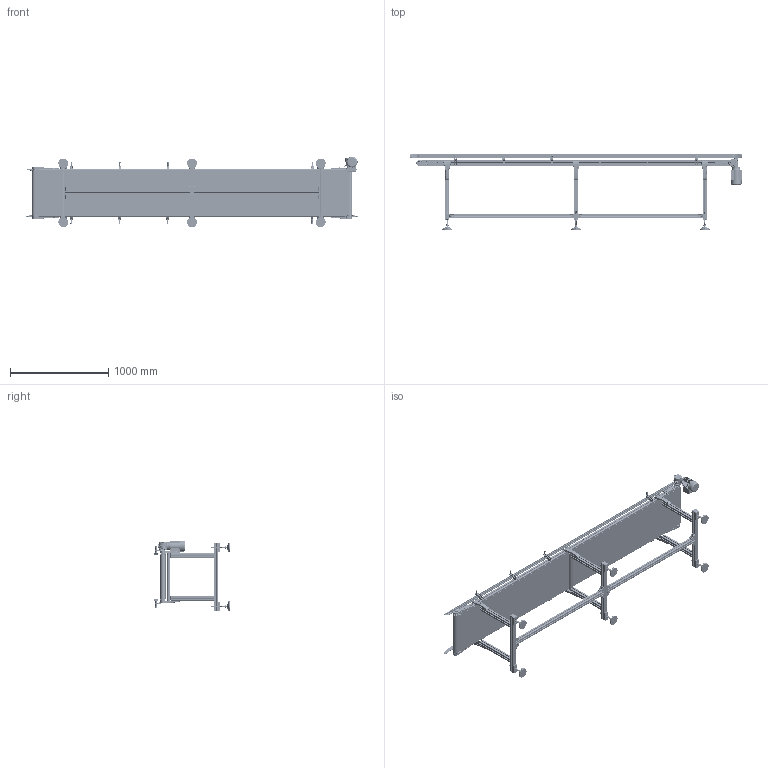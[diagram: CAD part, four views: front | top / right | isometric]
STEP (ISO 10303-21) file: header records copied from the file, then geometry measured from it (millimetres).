
FILE_DESCRIPTION (( 'STEP AP203' ), '1' );
FILE_NAME ('NASTRO_RETTILINEO_TAPPETO.step', '2026-06-06T00:15:28', ( 'Utente Windows' ), ( '' ), 'SwSTEP 2.0', 'SolidWorks 2024', '' );
FILE_SCHEMA (( 'CONFIG_CONTROL_DESIGN' ));
Length unit declared in the file: millimetre
Products named in the file (79): 084.402.005; 084.302.000 DADI ALUSIC 13x13-1_084.302.007; 084.802.065_Default<A macchina>; 084.711.006_L1; 2010.000.068; VITI TCEI UNI 5931_M6x12 UNI 5931; 084.712.005; ANGOLARE_43; 084.802.013-2; SPONDA_Default<A macchina>; 084.802.014; 084.803.018; 0820ISO2342; 084.711.005; 084.303.001; CH03P_DX; FLANGIA_GAMBA_50; 084.711.007; 084.811.001; 084.802.017_084.802.017; 2010.000.068_L; 084.711.006_PER CAVA 8 PERNO ALTO 1; VITI TSEI UNI 5933_M5x12 UNI 5933; 084.201.012; 084.302.000 DADI ALUSIC 13x13-1_084.302.004; 084.301.000 VITI ALUSIC_084.301.009; RONDELLE FASCIA LARGA UNI 6593_5.4x20 UNI 6593; 084.808.012; TRAVERSA_50_Default<A macchina>; PIEDE; TELAIO_50_STANDARD_Default<A macchina>; 084.811.004; CHIAVETTE_A 5x5x20 UNI 6604-69; 084.711.006_L2; RULLO_REGGITAPPETO; 084.802.061; RONDELLE UNI 6592_8.4x17 UNI 6592; 084.305.003-1; VITI TE UNI 5739_M6x16 UNI 5739; 084.810.001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
Assembly tree (218 placements, depth 4):
  NASTRO_RETTILINEO_TAPPETO
    TAPPETO_STANDARD
    TELAIO_50_STANDARD_Default<A macchina>
    LAMIERA_STANDARD  x2
    RULLO_50_Default<A macchina>  x2
    BLOCCO_PERNO_50_30
      084.810.001
      084.811.001
      RONDELLE FASCIA LARGA UNI 6593_5.4x20 UNI 6593
      084.301.000 VITI ALUSIC_084.301.009
      CHIAVETTE_A 5x5x40 UNI 6604-69
      CHIAVETTE_A 5x5x20 UNI 6604-69
      14UNI7435
    BLOCCO_TRAINO_50_STANDARD_30_DX
      084.807.003_084.807.003<A macchina>
      084.802.017_084.802.017
      084.301.000 VITI ALUSIC_084.301.003  x2
      084.302.000 DADI ALUSIC 13x13-1_084.302.004  x2
      BLOCCO_BRACCIO_CH03P_VF30P
        084.808.012
        084.802.062
        0820ISO2342
        084.802.061
        VITI TE UNI 5739_M6x16 UNI 5739  x4
        084.803.018
        VITI TCEI UNI 5931_M6x12 UNI 5931  x4
      084.802.065_Default<A macchina>
      VITI TCEI UNI 5931_M4x25 UNI 5931  x2
    BLOCCO_PERNO_50_RINVIO  x3
      084.811.004
      084.810.001
    BLOCCO_TRAINO_50_STANDARD
      084.807.002_084.807.002
      084.802.017_084.802.017
      084.301.000 VITI ALUSIC_084.301.003  x2
      084.302.000 DADI ALUSIC 13x13-1_084.302.004  x2
      084.802.071
      VITI TSEI UNI 5933 INOX_0412UNI5933A2  x2
    BLOCCO_RINVIO_50_STANDARD  x2
      084.807.002_084.807.002
      084.802.017_084.802.017
      084.802.008
      084.301.000 VITI ALUSIC_084.301.003
      084.302.000 DADI ALUSIC 13x13_084.302.004
      VITI TSEI UNI 5933_M4x10 UNI 5933
      084.802.071
    SPONDA_Default<A macchina>  x2
    084.711.006_PER CAVA 8 PERNO ALTO 1  x8
      084.711.006_L1
      084.711.006_L2
      084.711.007
      084.711.005
      084.711.010
      DADI ESAGONALI NORMALI UNI 5588_M6 UNI 5588
    084.712.005  x4
      084.712.005
      DADI ESAGONALI NORMALI UNI 5588_M6 UNI 5588
      GRANI A PUNTA CONICA UNI 5927_M6x16 UNI 5927
    GAMBE_D50_Default<A macchina>  x3
    FLANGIA_GAMBA_50
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Bounding box: 3378.88 x 772.1 x 717.92 mm (x, y, z)
Volume: 26164958.5 mm3; surface area: 21846548.1 mm2
Topology: 469 solids, 477 shells, 25202 faces, 65220 edges, 41194 vertices
Faces by surface type: plane 10134, cylinder 8295, bspline 2653, cone 2019, torus 1775, sphere 326
Entity records: 301465 total; most frequent: CARTESIAN_POINT 99498, ORIENTED_EDGE 41892, DIRECTION 37404, EDGE_CURVE 20946, VERTEX_POINT 13458, AXIS2_PLACEMENT_3D 12835, VECTOR 11734, LINE 11734
